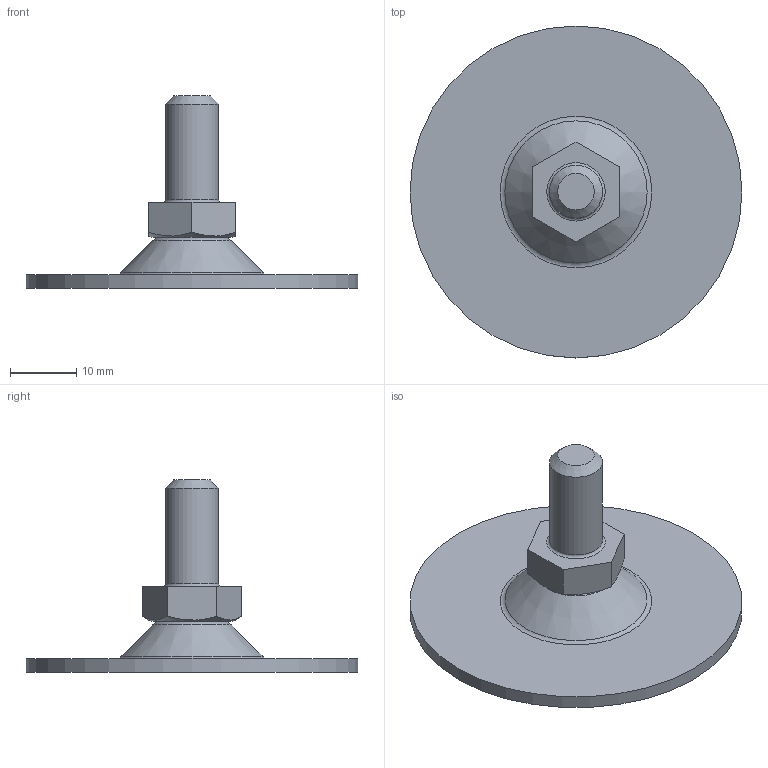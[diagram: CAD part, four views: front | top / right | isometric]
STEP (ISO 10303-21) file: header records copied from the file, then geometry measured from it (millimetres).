
FILE_DESCRIPTION(('STEP AP203'), '1');
FILE_NAME('A00050.1050816', '', ('UNSPECIFIED'), ('UNSPECIFIED'), 'C3D Converter', 'C3D Toolkit', '');
FILE_SCHEMA(('CONFIG_CONTROL_DESIGN'));
Length unit declared in the file: millimetre
Products named in the file (4): A00050.1050816; A00050.1050
Assembly tree (3 placements, depth 2):
  A00050.1050816
    A00050.1050
    (unnamed)
    (unnamed)
Bounding box: 50 x 50 x 28.92 mm (x, y, z)
Volume: 5726.1 mm3; surface area: 5783.5 mm2
Topology: 3 solids, 3 shells, 58 faces, 130 edges, 82 vertices
Faces by surface type: plane 28, torus 8, bspline 8, cone 7, cylinder 6, sphere 1
Full cylindrical faces by diameter (mm): 3.3 x1, 4 x1, 4.5 x1, 8 x2, 50 x1
Entity records: 2171 total; most frequent: CARTESIAN_POINT 784, DIRECTION 242, ORIENTED_EDGE 214, EDGE_CURVE 107, AXIS2_PLACEMENT_3D 95, EDGE_LOOP 86, VERTEX_POINT 81, ADVANCED_FACE 58
